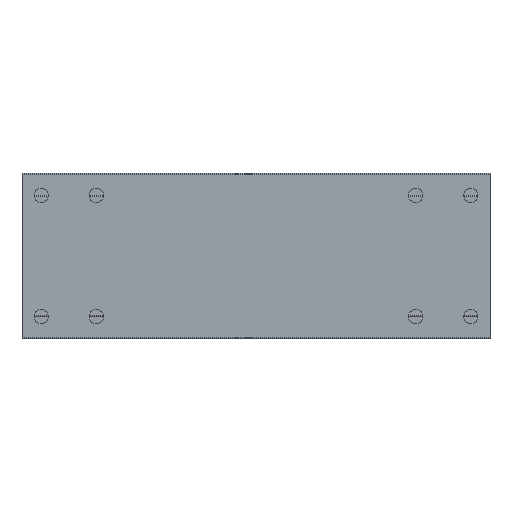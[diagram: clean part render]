
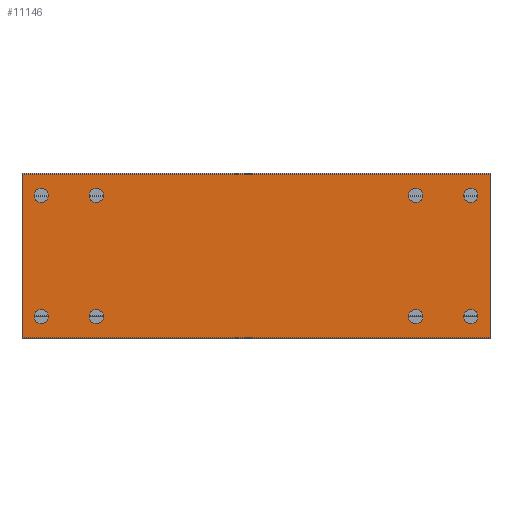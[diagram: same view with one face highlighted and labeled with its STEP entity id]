
A CAD part, front view. The second image highlights one B-rep face of the part: STEP entity #11146.
In plain terms, the highlighted planar face has unit normal (0, -1, 0).
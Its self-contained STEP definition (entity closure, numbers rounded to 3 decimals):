
#380=CIRCLE('',#11812,1.3);
#381=CIRCLE('',#11813,1.3);
#382=CIRCLE('',#11814,1.3);
#383=CIRCLE('',#11815,1.3);
#384=CIRCLE('',#11816,1.3);
#385=CIRCLE('',#11817,1.3);
#386=CIRCLE('',#11818,1.3);
#387=CIRCLE('',#11819,1.3);
#1136=ORIENTED_EDGE('',*,*,#4505,.F.);
#1137=ORIENTED_EDGE('',*,*,#4506,.F.);
#1138=ORIENTED_EDGE('',*,*,#4507,.F.);
#1139=ORIENTED_EDGE('',*,*,#4508,.F.);
#1140=ORIENTED_EDGE('',*,*,#4509,.T.);
#1141=ORIENTED_EDGE('',*,*,#4510,.F.);
#1142=ORIENTED_EDGE('',*,*,#4511,.F.);
#1143=ORIENTED_EDGE('',*,*,#4512,.F.);
#1144=ORIENTED_EDGE('',*,*,#4479,.T.);
#1145=ORIENTED_EDGE('',*,*,#4513,.F.);
#1146=ORIENTED_EDGE('',*,*,#4514,.F.);
#1147=ORIENTED_EDGE('',*,*,#4503,.T.);
#4479=EDGE_CURVE('',#6166,#6165,#7313,.T.);
#4503=EDGE_CURVE('',#6188,#6166,#7337,.T.);
#4505=EDGE_CURVE('',#6189,#6189,#380,.T.);
#4506=EDGE_CURVE('',#6190,#6190,#381,.T.);
#4507=EDGE_CURVE('',#6191,#6191,#382,.T.);
#4508=EDGE_CURVE('',#6192,#6192,#383,.T.);
#4509=EDGE_CURVE('',#6193,#6193,#384,.T.);
#4510=EDGE_CURVE('',#6194,#6194,#385,.T.);
#4511=EDGE_CURVE('',#6195,#6195,#386,.T.);
#4512=EDGE_CURVE('',#6196,#6196,#387,.T.);
#4513=EDGE_CURVE('',#6197,#6165,#7339,.T.);
#4514=EDGE_CURVE('',#6188,#6197,#7340,.T.);
#6165=VERTEX_POINT('',#16874);
#6166=VERTEX_POINT('',#16876);
#6188=VERTEX_POINT('',#16925);
#6189=VERTEX_POINT('',#16929);
#6190=VERTEX_POINT('',#16931);
#6191=VERTEX_POINT('',#16933);
#6192=VERTEX_POINT('',#16935);
#6193=VERTEX_POINT('',#16937);
#6194=VERTEX_POINT('',#16939);
#6195=VERTEX_POINT('',#16941);
#6196=VERTEX_POINT('',#16943);
#6197=VERTEX_POINT('',#16945);
#7313=LINE('',#16875,#8327);
#7337=LINE('',#16924,#8351);
#7339=LINE('',#16944,#8353);
#7340=LINE('',#16946,#8354);
#8327=VECTOR('',#13186,1000.);
#8351=VECTOR('',#13216,1000.);
#8353=VECTOR('',#13236,1000.);
#8354=VECTOR('',#13237,1000.);
#9297=EDGE_LOOP('',(#1136));
#9298=EDGE_LOOP('',(#1137));
#9299=EDGE_LOOP('',(#1138));
#9300=EDGE_LOOP('',(#1139));
#9301=EDGE_LOOP('',(#1140));
#9302=EDGE_LOOP('',(#1141));
#9303=EDGE_LOOP('',(#1142));
#9304=EDGE_LOOP('',(#1143));
#9305=EDGE_LOOP('',(#1144,#1145,#1146,#1147));
#10077=FACE_BOUND('',#9297,.T.);
#10078=FACE_BOUND('',#9298,.T.);
#10079=FACE_BOUND('',#9299,.T.);
#10080=FACE_BOUND('',#9300,.T.);
#10081=FACE_BOUND('',#9301,.T.);
#10082=FACE_BOUND('',#9302,.T.);
#10083=FACE_BOUND('',#9303,.T.);
#10084=FACE_BOUND('',#9304,.T.);
#10085=FACE_BOUND('',#9305,.T.);
#10857=PLANE('',#11811);
#11146=ADVANCED_FACE('',(#10077,#10078,#10079,#10080,#10081,#10082,#10083,
#10084,#10085),#10857,.F.);
#11811=AXIS2_PLACEMENT_3D('',#16927,#13218,#13219);
#11812=AXIS2_PLACEMENT_3D('',#16928,#13220,#13221);
#11813=AXIS2_PLACEMENT_3D('',#16930,#13222,#13223);
#11814=AXIS2_PLACEMENT_3D('',#16932,#13224,#13225);
#11815=AXIS2_PLACEMENT_3D('',#16934,#13226,#13227);
#11816=AXIS2_PLACEMENT_3D('',#16936,#13228,#13229);
#11817=AXIS2_PLACEMENT_3D('',#16938,#13230,#13231);
#11818=AXIS2_PLACEMENT_3D('',#16940,#13232,#13233);
#11819=AXIS2_PLACEMENT_3D('',#16942,#13234,#13235);
#13186=DIRECTION('',(0.,0.,-1.));
#13216=DIRECTION('',(-1.,0.,0.));
#13218=DIRECTION('',(0.,1.,0.));
#13219=DIRECTION('',(0.,0.,1.));
#13220=DIRECTION('',(0.,-1.,0.));
#13221=DIRECTION('',(0.,0.,-1.));
#13222=DIRECTION('',(0.,-1.,0.));
#13223=DIRECTION('',(0.,0.,-1.));
#13224=DIRECTION('',(0.,-1.,0.));
#13225=DIRECTION('',(0.,0.,-1.));
#13226=DIRECTION('',(0.,-1.,0.));
#13227=DIRECTION('',(0.,0.,-1.));
#13228=DIRECTION('',(0.,1.,0.));
#13229=DIRECTION('',(0.,0.,1.));
#13230=DIRECTION('',(0.,-1.,0.));
#13231=DIRECTION('',(0.,0.,-1.));
#13232=DIRECTION('',(0.,-1.,0.));
#13233=DIRECTION('',(0.,0.,-1.));
#13234=DIRECTION('',(0.,-1.,0.));
#13235=DIRECTION('',(0.,0.,-1.));
#13236=DIRECTION('',(-1.,0.,0.));
#13237=DIRECTION('',(0.,0.,-1.));
#16874=CARTESIAN_POINT('',(0.,0.,-14.85));
#16875=CARTESIAN_POINT('',(0.,0.,14.85));
#16876=CARTESIAN_POINT('',(0.,0.,14.85));
#16924=CARTESIAN_POINT('',(85.,0.,14.85));
#16925=CARTESIAN_POINT('',(85.,0.,14.85));
#16927=CARTESIAN_POINT('',(85.,0.,14.85));
#16928=CARTESIAN_POINT('',(71.5,0.,11.));
#16929=CARTESIAN_POINT('',(71.5,0.,9.7));
#16930=CARTESIAN_POINT('',(71.5,0.,-11.));
#16931=CARTESIAN_POINT('',(71.5,0.,-12.3));
#16932=CARTESIAN_POINT('',(13.5,0.,11.));
#16933=CARTESIAN_POINT('',(13.5,0.,9.7));
#16934=CARTESIAN_POINT('',(13.5,0.,-11.));
#16935=CARTESIAN_POINT('',(13.5,0.,-12.3));
#16936=CARTESIAN_POINT('',(81.5,0.,11.));
#16937=CARTESIAN_POINT('',(81.5,0.,12.3));
#16938=CARTESIAN_POINT('',(81.5,0.,-11.));
#16939=CARTESIAN_POINT('',(81.5,0.,-12.3));
#16940=CARTESIAN_POINT('',(3.5,0.,-11.));
#16941=CARTESIAN_POINT('',(3.5,0.,-12.3));
#16942=CARTESIAN_POINT('',(3.5,0.,11.));
#16943=CARTESIAN_POINT('',(3.5,0.,9.7));
#16944=CARTESIAN_POINT('',(85.,0.,-14.85));
#16945=CARTESIAN_POINT('',(85.,0.,-14.85));
#16946=CARTESIAN_POINT('',(85.,0.,14.85));
